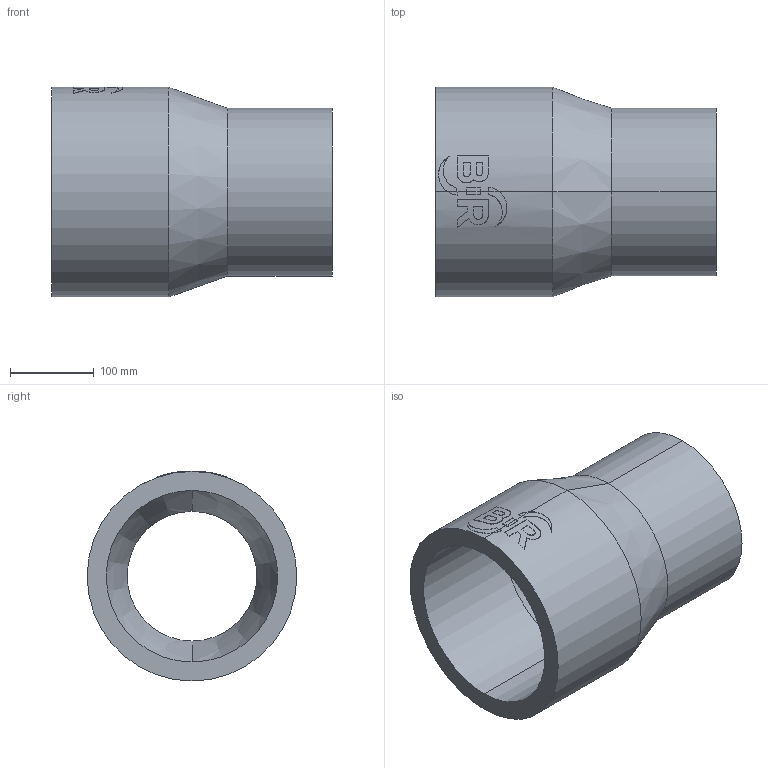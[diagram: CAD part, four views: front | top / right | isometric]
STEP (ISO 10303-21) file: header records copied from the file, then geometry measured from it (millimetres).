
FILE_DESCRIPTION (( 'STEP AP214' ), '1' );
FILE_NAME ('2323211915.STEP', '2018-07-20T09:10:42', ( '' ), ( '' ), 'SwSTEP 2.0', 'SolidWorks 2017', '' );
FILE_SCHEMA (( 'AUTOMOTIVE_DESIGN' ));
Length unit declared in the file: millimetre
Products named in the file (1): 2323211915
Bounding box: 335 x 250 x 250.46 mm (x, y, z)
Volume: 4916360.6 mm3; surface area: 462251.4 mm2
Topology: 1 solids, 1 shells, 63 faces, 160 edges, 104 vertices
Faces by surface type: cylinder 31, plane 28, cone 4
Entity records: 3357 total; most frequent: CARTESIAN_POINT 1148, ORIENTED_EDGE 320, DIRECTION 296, EDGE_CURVE 160, AXIS2_PLACEMENT_3D 112, VERTEX_POINT 104, VECTOR 72, LINE 72
